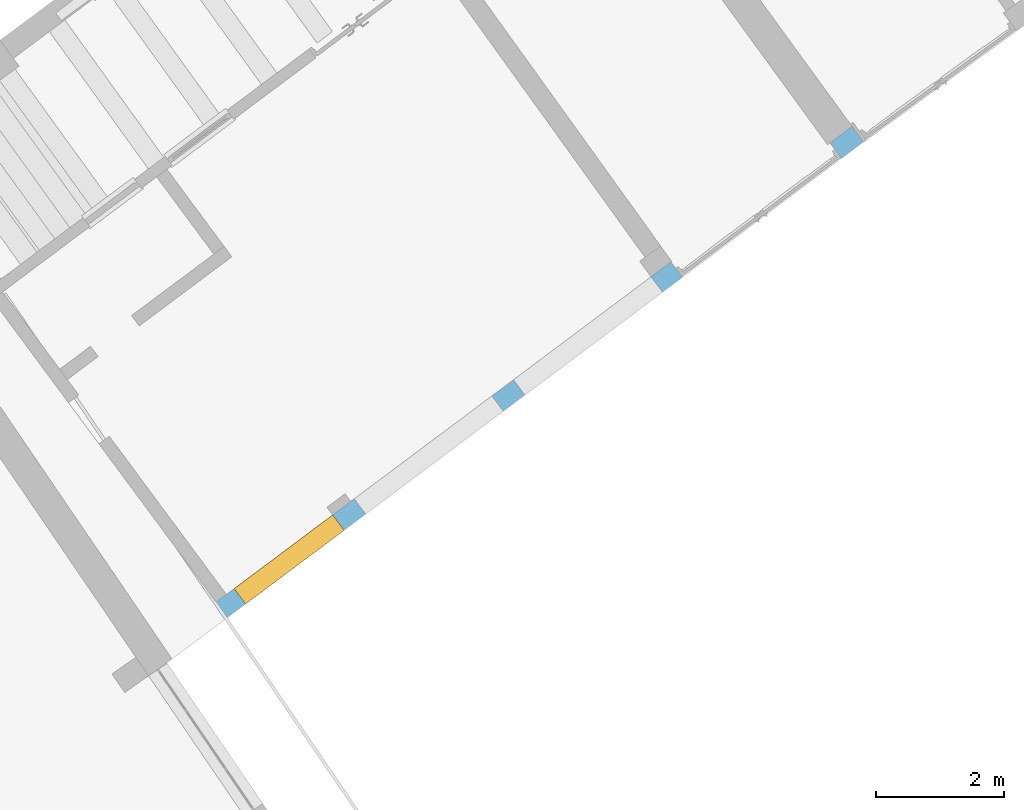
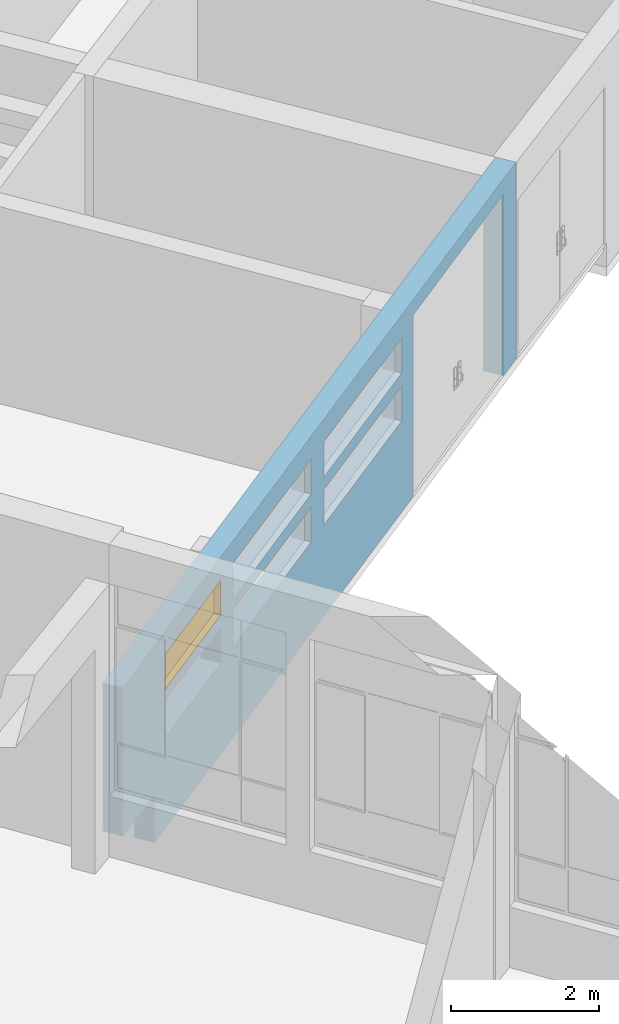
# One storey, part 138 of 157: 1 window, 7 openings, plus 1 element that does not belong to this part.
"""IFC2X3 building model written with IfcOpenShell, lengths in millimetres."""

from ifc_helpers import new_model, entity, si_unit, converted_unit, derived_unit, direction, frame, frame_2d, origin, origin_2d_with_axis, place, context, subcontext, project, spatial, polyline, rectangle, outline, extrude, faceted_brep, source, transform, mapped, material, material_list, layer, layer_set, type_object, type_shapes, element, fill, save


model = new_model("IFC2X3")

# Units and contexts
model_context = context("Model", 3, precision=0.01, world=origin(), true_north=direction((6.123031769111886e-17, 1.0)))
body_context = subcontext(model_context, "Body", "Model", "MODEL_VIEW")
ifc_project = project(units=[si_unit("LENGTHUNIT", "METRE", prefix="MILLI"), si_unit("AREAUNIT", "SQUARE_METRE"), si_unit("VOLUMEUNIT", "CUBIC_METRE"), converted_unit("PLANEANGLEUNIT", "DEGREE", entity("IfcRatioMeasure", 0.017453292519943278), si_unit("PLANEANGLEUNIT", "RADIAN"), dimensions=[0, 0, 0, 0, 0, 0, 0]), si_unit("MASSUNIT", "GRAM", prefix="KILO"), derived_unit("MASSDENSITYUNIT", [(si_unit("MASSUNIT", "GRAM", prefix="KILO"), 1), (si_unit("LENGTHUNIT", "METRE"), -3)]), derived_unit("MOMENTOFINERTIAUNIT", [(si_unit("LENGTHUNIT", "METRE"), 4)]), si_unit("TIMEUNIT", "SECOND"), si_unit("FREQUENCYUNIT", "HERTZ"), si_unit("THERMODYNAMICTEMPERATUREUNIT", "DEGREE_CELSIUS"), derived_unit("THERMALTRANSMITTANCEUNIT", [(si_unit("MASSUNIT", "GRAM", prefix="KILO"), 1), (si_unit("THERMODYNAMICTEMPERATUREUNIT", "KELVIN"), -1), (si_unit("TIMEUNIT", "SECOND"), -3)]), derived_unit("THERMALCONDUCTANCEUNIT", [(si_unit("MASSUNIT", "GRAM", prefix="KILO"), 1), (si_unit("LENGTHUNIT", "METRE"), 1), (si_unit("THERMODYNAMICTEMPERATUREUNIT", "KELVIN"), -1), (si_unit("TIMEUNIT", "SECOND"), -3)]), derived_unit("VOLUMETRICFLOWRATEUNIT", [(si_unit("LENGTHUNIT", "METRE"), 3), (si_unit("TIMEUNIT", "SECOND"), -1)]), derived_unit("MASSFLOWRATEUNIT", [(si_unit("MASSUNIT", "GRAM", prefix="KILO"), 1), (si_unit("TIMEUNIT", "SECOND"), -1)]), derived_unit("ROTATIONALFREQUENCYUNIT", [(si_unit("TIMEUNIT", "SECOND"), -1)]), si_unit("ELECTRICCURRENTUNIT", "AMPERE"), si_unit("ELECTRICVOLTAGEUNIT", "VOLT"), si_unit("POWERUNIT", "WATT"), converted_unit("FORCEUNIT", "KIP", entity("IfcRatioMeasure", 2.088543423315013e-05), si_unit("FORCEUNIT", "NEWTON"), dimensions=[1, 1, -2, 0, 0, 0, 0]), si_unit("ILLUMINANCEUNIT", "LUX"), si_unit("LUMINOUSFLUXUNIT", "LUMEN"), si_unit("LUMINOUSINTENSITYUNIT", "CANDELA"), derived_unit("USERDEFINED", [(si_unit("MASSUNIT", "GRAM", prefix="KILO"), -1), (si_unit("LENGTHUNIT", "METRE"), -2), (si_unit("TIMEUNIT", "SECOND"), 3), (si_unit("LUMINOUSFLUXUNIT", "LUMEN"), 1)]), derived_unit("USERDEFINED", [(si_unit("MASSUNIT", "GRAM", prefix="KILO"), 1), (si_unit("LENGTHUNIT", "METRE"), 3), (si_unit("TIMEUNIT", "SECOND"), -3), (si_unit("ELECTRICCURRENTUNIT", "AMPERE"), -2)]), derived_unit("USERDEFINED", [(si_unit("LENGTHUNIT", "METRE"), 2), (si_unit("TIMEUNIT", "SECOND"), -2)]), derived_unit("SOUNDPOWERUNIT", [(si_unit("MASSUNIT", "GRAM", prefix="KILO"), 1), (si_unit("LENGTHUNIT", "METRE"), 2), (si_unit("TIMEUNIT", "SECOND"), -3)]), derived_unit("SOUNDPRESSUREUNIT", [(si_unit("MASSUNIT", "GRAM", prefix="KILO"), 1), (si_unit("LENGTHUNIT", "METRE"), -1), (si_unit("TIMEUNIT", "SECOND"), -2)]), derived_unit("LINEARVELOCITYUNIT", [(si_unit("LENGTHUNIT", "METRE"), 1), (si_unit("TIMEUNIT", "SECOND"), -1)]), si_unit("PRESSUREUNIT", "PASCAL"), derived_unit("USERDEFINED", [(si_unit("LENGTHUNIT", "METRE"), -2), (si_unit("MASSUNIT", "GRAM", prefix="KILO"), 1), (si_unit("TIMEUNIT", "SECOND"), -2)]), derived_unit("LINEARFORCEUNIT", [(si_unit("MASSUNIT", "GRAM", prefix="KILO"), 1), (si_unit("LENGTHUNIT", "METRE"), 1), (si_unit("TIMEUNIT", "SECOND"), -2), (si_unit("LENGTHUNIT", "METRE"), -1)]), derived_unit("PLANARFORCEUNIT", [(si_unit("MASSUNIT", "GRAM", prefix="KILO"), 1), (si_unit("LENGTHUNIT", "METRE"), 1), (si_unit("TIMEUNIT", "SECOND"), -2), (si_unit("LENGTHUNIT", "METRE"), -2)]), derived_unit("SPECIFICHEATCAPACITYUNIT", [(si_unit("LENGTHUNIT", "METRE"), 2), (si_unit("TIMEUNIT", "SECOND"), -2), (si_unit("THERMODYNAMICTEMPERATUREUNIT", "KELVIN"), -1)]), derived_unit("VAPORPERMEABILITYUNIT", [(si_unit("TIMEUNIT", "SECOND"), 1), (si_unit("LENGTHUNIT", "METRE"), -1)]), derived_unit("DYNAMICVISCOSITYUNIT", [(si_unit("MASSUNIT", "GRAM", prefix="KILO"), 1), (si_unit("LENGTHUNIT", "METRE"), -1), (si_unit("TIMEUNIT", "SECOND"), -1)]), derived_unit("THERMALEXPANSIONCOEFFICIENTUNIT", [(si_unit("THERMODYNAMICTEMPERATUREUNIT", "KELVIN"), -1)])], contexts=[model_context])

# Site, building, storey
site_placement = place(None, frame((0.0, 0.0, 0.0), z_axis=(0.0, 0.0, 1.0), x_axis=(0.8191520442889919, 0.5735764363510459, 0.0)))
site = spatial("IfcSite", under=ifc_project, at=site_placement, Name="Default", CompositionType="ELEMENT")
building_placement = place(site_placement, origin())
building = spatial("IfcBuilding", under=site, at=building_placement, CompositionType="ELEMENT")
storey_placement = place(building_placement, origin())
storey = spatial("IfcBuildingStorey", under=building, at=storey_placement, Name="1.EG +0.00", CompositionType="ELEMENT", Elevation=-4.331468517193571e-12)

# Wall, openings, window
ifc_material_1 = material(Name="Analytical Wall Surface_CJC")
ifc_layer = layer(ifc_material_1, 300.0)
ifc_layer_set = layer_set([ifc_layer], Name="Basic Wall:Wand_Aussen_30")
wall_type = type_object("IfcWallType", Name="Basic Wall:Wand_Aussen_30", PredefinedType="STANDARD", material=ifc_layer_set)
wall_placement = place(storey_placement, frame((-204115.16931109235, 157974.41195440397, -750.0), z_axis=(0.0, 0.0, 1.0), x_axis=(0.9995120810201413, 0.031234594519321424, 0.0)))
wall = element("IfcWall", 1, at=wall_placement, inside=storey, type_object=wall_type, Name="Basic Wall:Wand_Aussen_30", ObjectType="Basic Wall:Wand_Aussen_30", context=body_context, shape_type="Brep", body=[
    faceted_brep([(13462.146148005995, -150.0, 3250.0), (0.0, -150.0, 3250.0), (0.0, -150.0, 800.0), (1079.6115661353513, -150.0, 800.0), (1079.6115661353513, -150.0, 0.0), (9937.425197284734, -150.0, 0.0), (9937.425197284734, -150.0, 3000.0), (13037.425197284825, -150.0, 3000.0), (13037.425197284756, -150.0, 0.0), (13462.146148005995, -150.0, 0.0), (6451.92844655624, -150.0, 1500.0), (3771.928446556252, -150.0, 1500.0), (3771.928446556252, -150.0, 2090.0), (6451.92844655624, -150.0, 2090.0), (9551.928446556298, -150.0, 1500.0), (6871.928446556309, -150.0, 1500.0), (6871.928446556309, -150.0, 2090.0), (9551.928446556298, -150.0, 2090.0), (3351.9284465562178, -150.0, 1500.0), (1431.928446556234, -150.0, 1500.0), (1431.928446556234, -150.0, 2090.0), (3351.9284465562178, -150.0, 2090.0), (3351.9284465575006, -150.0, 2880.0), (3351.9284465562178, -150.0, 2290.0), (1431.928446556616, -150.0, 2290.0), (1431.9284465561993, -150.0, 2880.0), (9551.928446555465, -150.0, 2880.0), (9551.928446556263, -150.0, 2290.0), (6871.928446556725, -150.0, 2290.0), (6871.928446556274, -150.0, 2880.0), (6451.928446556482, -150.0, 2880.0), (6451.928446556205, -150.0, 2290.0), (3771.9284465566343, -150.0, 2290.0), (3771.9284465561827, -150.0, 2880.0), (0.0, 150.0, 3250.0), (1081.098058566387, 150.0, 3250.0), (1281.100513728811, 150.0, 3250.0), (3351.9284465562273, 150.0, 3250.0), (3701.9284465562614, 150.0, 3250.0), (9551.928446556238, 150.0, 3250.0), (9951.967355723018, 150.0, 3250.0), (12990.91558234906, 150.0, 3250.0), (13465.953840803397, 150.0, 3250.0), (13465.953840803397, 150.0, 0.0), (13037.425197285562, 150.0, 0.0), (13037.42519728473, 150.0, 3000.0), (9937.425197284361, 150.0, 3000.0), (9937.425197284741, 150.0, 0.0), (1281.100513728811, 150.0, 0.0), (1081.098058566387, 150.0, 0.0), (1081.098058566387, 150.0, 800.0), (0.0, 150.0, 800.0), (6451.928446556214, 150.0, 1500.0), (6451.928446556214, 150.0, 2090.0), (3771.9284465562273, 150.0, 2090.0), (3771.9284465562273, 150.0, 1500.0), (9551.928446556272, 150.0, 1500.0), (9551.928446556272, 150.0, 2090.0), (6871.928446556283, 150.0, 2090.0), (6871.928446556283, 150.0, 1500.0), (3351.9284465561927, 150.0, 1500.0), (3351.9284465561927, 150.0, 2090.0), (1431.9284465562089, 150.0, 2090.0), (1431.9284465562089, 150.0, 1500.0), (9551.928446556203, 150.0, 2290.0), (9551.928446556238, 150.0, 2880.0), (6871.928446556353, 150.0, 2880.0), (6871.928446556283, 150.0, 2290.0), (6451.928446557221, 150.0, 2290.0), (6451.928446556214, 150.0, 2880.0), (3771.928446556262, 150.0, 2880.0), (3771.9284465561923, 150.0, 2290.0), (3351.9284465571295, 150.0, 2290.0), (3351.9284465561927, 150.0, 2880.0), (1431.9284465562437, 150.0, 2880.0), (1431.9284465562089, 150.0, 2290.0)], [[[0, 1, 2, 3, 4, 5, 6, 7, 8, 9], [10, 11, 12, 13], [14, 15, 16, 17], [18, 19, 20, 21], [22, 23, 24, 25], [26, 27, 28, 29], [30, 31, 32, 33]], [[34, 35, 36, 37, 38, 39, 40, 41, 42, 43, 44, 45, 46, 47, 48, 49, 50, 51], [52, 53, 54, 55], [56, 57, 58, 59], [60, 61, 62, 63], [64, 65, 66, 67], [68, 69, 70, 71], [72, 73, 74, 75]], [[0, 9, 43, 42]], [[4, 49, 48, 47, 5]], [[1, 0, 42, 41, 40, 39, 38, 37, 36, 35, 34]], [[2, 1, 34, 51]], [[3, 2, 51, 50]], [[4, 3, 50, 49]], [[46, 6, 5, 47]], [[6, 46, 45, 7]], [[7, 45, 44, 8]], [[53, 52, 10, 13]], [[54, 53, 13, 12]], [[55, 54, 12, 11]], [[52, 55, 11, 10]], [[57, 56, 14, 17]], [[58, 57, 17, 16]], [[59, 58, 16, 15]], [[56, 59, 15, 14]], [[61, 60, 18, 21]], [[62, 61, 21, 20]], [[63, 62, 20, 19]], [[60, 63, 19, 18]], [[72, 23, 22, 73]], [[73, 22, 25, 74]], [[74, 25, 24, 75]], [[23, 72, 75, 24]], [[64, 27, 26, 65]], [[65, 26, 29, 66]], [[28, 67, 66, 29]], [[27, 64, 67, 28]], [[68, 31, 30, 69]], [[69, 30, 33, 70]], [[32, 71, 70, 33]], [[31, 68, 71, 32]], [[43, 9, 8, 44]]]),
])
opening_1_placement = place(wall_placement, frame((13037.425197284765, 150.0, 0.0)))
element("IfcOpeningElement", 2, at=opening_1_placement, cuts=wall, Name="M_Door-Exterior-Double:300x290:1", ObjectType="Opening", context=body_context, shape_type="SweptSolid", body=[
    extrude(rectangle(XDim=3000.0, YDim=3099.999999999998, at=frame_2d((1500.0, 1549.999999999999), x_axis=(1.0, 0.0))), frame((0.0, 0.0, 0.0), z_axis=(0.0, -1.0, 0.0), x_axis=(0.0, 0.0, 1.0)), (0.0, 0.0, 1.0), 300.0),
])
opening_2_placement = place(wall_placement, frame((6451.928446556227, 150.0, 1500.0)))
element("IfcOpeningElement", 3, at=opening_2_placement, cuts=wall, Name="WINDOW_Glass_Block:WINDOW_Glass_Block_14x3:1", ObjectType="Opening", context=body_context, shape_type="SweptSolid", body=[
    extrude(rectangle(XDim=589.9999999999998, YDim=2679.999999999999, at=frame_2d((294.99999999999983, 1339.9999999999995), x_axis=(1.0, 0.0))), frame((0.0, 0.0, 0.0), z_axis=(0.0, -1.0, 0.0), x_axis=(0.0, 0.0, 1.0)), (0.0, 0.0, 1.0), 300.0),
])
opening_3_placement = place(wall_placement, frame((9551.928446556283, 150.0, 1500.0)))
element("IfcOpeningElement", 4, at=opening_3_placement, cuts=wall, Name="WINDOW_Glass_Block:WINDOW_Glass_Block_14x3:1", ObjectType="Opening", context=body_context, shape_type="SweptSolid", body=[
    extrude(rectangle(XDim=589.9999999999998, YDim=2679.999999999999, at=frame_2d((294.99999999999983, 1339.9999999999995), x_axis=(1.0, 0.0))), frame((0.0, 0.0, 0.0), z_axis=(0.0, -1.0, 0.0), x_axis=(0.0, 0.0, 1.0)), (0.0, 0.0, 1.0), 300.0),
])
opening_4_placement = place(wall_placement, frame((3351.92844655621, 150.0, 1500.0)))
element("IfcOpeningElement", 5, at=opening_4_placement, cuts=wall, Name="WINDOW_Glass_Block:WINDOW_Glass_Block_10x3:1", ObjectType="Opening", context=body_context, shape_type="SweptSolid", body=[
    extrude(rectangle(XDim=589.9999999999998, YDim=1920.0, at=frame_2d((294.99999999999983, 960.0), x_axis=(1.0, 0.0))), frame((0.0, 0.0, 0.0), z_axis=(0.0, -1.0, 0.0), x_axis=(0.0, 0.0, 1.0)), (0.0, 0.0, 1.0), 300.0),
])
opening_5_placement = place(wall_placement, frame((6451.928446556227, 150.0, 2290.0)))
element("IfcOpeningElement", 6, at=opening_5_placement, cuts=wall, Name="WINDOW_Glass_Block:WINDOW_Glass_Block_14x3:1", ObjectType="Opening", context=body_context, shape_type="SweptSolid", body=[
    extrude(rectangle(XDim=589.9999999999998, YDim=2679.999999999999, at=frame_2d((294.99999999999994, 1339.9999999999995), x_axis=(1.0, 0.0))), frame((0.0, 0.0, 0.0), z_axis=(0.0, -1.0, 0.0), x_axis=(0.0, 0.0, 1.0)), (0.0, 0.0, 1.0), 300.0),
])
opening_6_placement = place(wall_placement, frame((9551.928446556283, 150.0, 2290.0)))
element("IfcOpeningElement", 7, at=opening_6_placement, cuts=wall, Name="WINDOW_Glass_Block:WINDOW_Glass_Block_14x3:1", ObjectType="Opening", context=body_context, shape_type="SweptSolid", body=[
    extrude(rectangle(XDim=589.9999999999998, YDim=2679.999999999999, at=frame_2d((294.99999999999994, 1339.9999999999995), x_axis=(1.0, 0.0))), frame((0.0, 0.0, 0.0), z_axis=(0.0, -1.0, 0.0), x_axis=(0.0, 0.0, 1.0)), (0.0, 0.0, 1.0), 300.0),
])
opening_7_placement = place(wall_placement, frame((3351.92844655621, 150.0, 2290.0)))
opening_7 = element("IfcOpeningElement", 8, at=opening_7_placement, cuts=wall, Name="WINDOW_Glass_Block:WINDOW_Glass_Block_10x3:1", ObjectType="Opening", context=body_context, shape_type="SweptSolid", body=[
    extrude(rectangle(XDim=589.9999999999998, YDim=1920.0, at=frame_2d((294.99999999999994, 960.0), x_axis=(1.0, 0.0))), frame((0.0, 0.0, 0.0), z_axis=(0.0, -1.0, 0.0), x_axis=(0.0, 0.0, 1.0)), (0.0, 0.0, 1.0), 300.0),
])
ifc_material_2 = material(Name="Glass")
ifc_material_3 = material(Name="Wood")
ifc_material_list = material_list([ifc_material_2, ifc_material_3])
window_style = type_object("IfcWindowStyle", Name="WINDOW_Glass_Block:WINDOW_Glass_Block_10x3", ConstructionType="NOTDEFINED", OperationType="NOTDEFINED", ParameterTakesPrecedence=False, Sizeable=False, material=ifc_material_list)
shared_shape = source(origin(), body_context, "Body", "SweptSolid", [
    extrude(rectangle(XDim=190.0, YDim=100.0, at=frame_2d((-6.394884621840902e-14, 0.0), x_axis=(1.0, 0.0))), frame((1625.0, 150.0, 200.0), z_axis=(0.0, 0.0, 1.0), x_axis=(-1.0, 0.0, 0.0)), (0.0, 0.0, 1.0), 189.99999999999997),
    extrude(rectangle(XDim=189.99999999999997, YDim=100.0, at=origin_2d_with_axis()), frame((1435.0, 150.0, 200.0), z_axis=(0.0, 0.0, 1.0), x_axis=(-1.0, 0.0, 0.0)), (0.0, 0.0, 1.0), 189.99999999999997),
    extrude(rectangle(XDim=189.99999999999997, YDim=100.0, at=origin_2d_with_axis()), frame((1245.0, 150.0, 200.0), z_axis=(0.0, 0.0, 1.0), x_axis=(-1.0, 0.0, 0.0)), (0.0, 0.0, 1.0), 189.99999999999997),
    extrude(rectangle(XDim=190.00000000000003, YDim=100.0, at=origin_2d_with_axis()), frame((1055.0, 150.0, 200.0), z_axis=(0.0, 0.0, 1.0), x_axis=(-1.0, 0.0, 0.0)), (0.0, 0.0, 1.0), 189.99999999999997),
    extrude(rectangle(XDim=190.0, YDim=100.0, at=frame_2d((-2.1316282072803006e-14, 0.0), x_axis=(1.0, 0.0))), frame((865.0, 150.0, 200.0), z_axis=(0.0, 0.0, 1.0), x_axis=(-1.0, 0.0, 0.0)), (0.0, 0.0, 1.0), 189.99999999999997),
    extrude(rectangle(XDim=190.0, YDim=100.0, at=frame_2d((-2.1316282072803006e-14, 0.0), x_axis=(1.0, 0.0))), frame((675.0, 150.0, 200.0), z_axis=(0.0, 0.0, 1.0), x_axis=(-1.0, 0.0, 0.0)), (0.0, 0.0, 1.0), 189.99999999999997),
    extrude(rectangle(XDim=190.00000000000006, YDim=100.0, at=frame_2d((-3.552713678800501e-14, 0.0), x_axis=(1.0, 0.0))), frame((485.0, 150.0, 200.0), z_axis=(0.0, 0.0, 1.0), x_axis=(-1.0, 0.0, 0.0)), (0.0, 0.0, 1.0), 189.99999999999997),
    extrude(rectangle(XDim=190.0, YDim=100.0, at=frame_2d((6.394884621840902e-14, 0.0), x_axis=(1.0, 0.0))), frame((295.0, 150.0, 200.0), z_axis=(0.0, 0.0, 1.0), x_axis=(-1.0, 0.0, 0.0)), (0.0, 0.0, 1.0), 189.99999999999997),
    extrude(rectangle(XDim=190.0, YDim=100.0, at=frame_2d((-6.394884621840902e-14, 0.0), x_axis=(1.0, 0.0))), frame((1815.0, 150.0, 200.0), z_axis=(0.0, 0.0, 1.0), x_axis=(-1.0, 0.0, 0.0)), (0.0, 0.0, 1.0), 189.99999999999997),
    extrude(rectangle(XDim=190.0, YDim=100.0, at=frame_2d((-6.394884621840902e-14, 0.0), x_axis=(1.0, 0.0))), frame((105.0, 150.0, 200.0), z_axis=(0.0, 0.0, 1.0), x_axis=(-1.0, 0.0, 0.0)), (0.0, 0.0, 1.0), 189.99999999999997),
    extrude(rectangle(XDim=190.0, YDim=100.0, at=frame_2d((-6.394884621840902e-14, 0.0), x_axis=(1.0, 0.0))), frame((1625.0, 150.0, 390.0), z_axis=(0.0, 0.0, 1.0), x_axis=(-1.0, 0.0, 0.0)), (0.0, 0.0, 1.0), 190.0000000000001),
    extrude(rectangle(XDim=189.99999999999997, YDim=100.0, at=origin_2d_with_axis()), frame((1435.0, 150.0, 390.0), z_axis=(0.0, 0.0, 1.0), x_axis=(-1.0, 0.0, 0.0)), (0.0, 0.0, 1.0), 190.0000000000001),
    extrude(rectangle(XDim=189.99999999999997, YDim=100.0, at=origin_2d_with_axis()), frame((1245.0, 150.0, 390.0), z_axis=(0.0, 0.0, 1.0), x_axis=(-1.0, 0.0, 0.0)), (0.0, 0.0, 1.0), 190.0000000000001),
    extrude(rectangle(XDim=190.00000000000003, YDim=100.0, at=origin_2d_with_axis()), frame((1055.0, 150.0, 390.0), z_axis=(0.0, 0.0, 1.0), x_axis=(-1.0, 0.0, 0.0)), (0.0, 0.0, 1.0), 190.0000000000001),
    extrude(rectangle(XDim=190.0, YDim=100.0, at=frame_2d((-2.1316282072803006e-14, 0.0), x_axis=(1.0, 0.0))), frame((865.0, 150.0, 390.0), z_axis=(0.0, 0.0, 1.0), x_axis=(-1.0, 0.0, 0.0)), (0.0, 0.0, 1.0), 190.0000000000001),
    extrude(rectangle(XDim=190.0, YDim=100.0, at=frame_2d((-2.1316282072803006e-14, 0.0), x_axis=(1.0, 0.0))), frame((675.0, 150.0, 390.0), z_axis=(0.0, 0.0, 1.0), x_axis=(-1.0, 0.0, 0.0)), (0.0, 0.0, 1.0), 190.0000000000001),
    extrude(rectangle(XDim=190.00000000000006, YDim=100.0, at=frame_2d((-3.552713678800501e-14, 0.0), x_axis=(1.0, 0.0))), frame((485.0, 150.0, 390.0), z_axis=(0.0, 0.0, 1.0), x_axis=(-1.0, 0.0, 0.0)), (0.0, 0.0, 1.0), 190.0000000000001),
    extrude(rectangle(XDim=190.0, YDim=100.0, at=frame_2d((6.394884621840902e-14, 0.0), x_axis=(1.0, 0.0))), frame((295.0, 150.0, 390.0), z_axis=(0.0, 0.0, 1.0), x_axis=(-1.0, 0.0, 0.0)), (0.0, 0.0, 1.0), 190.0000000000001),
    extrude(rectangle(XDim=190.0, YDim=100.0, at=frame_2d((-6.394884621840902e-14, 0.0), x_axis=(1.0, 0.0))), frame((1815.0, 150.0, 390.0), z_axis=(0.0, 0.0, 1.0), x_axis=(-1.0, 0.0, 0.0)), (0.0, 0.0, 1.0), 190.0000000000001),
    extrude(rectangle(XDim=190.0, YDim=100.0, at=frame_2d((-6.394884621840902e-14, 0.0), x_axis=(1.0, 0.0))), frame((105.0, 150.0, 390.0), z_axis=(0.0, 0.0, 1.0), x_axis=(-1.0, 0.0, 0.0)), (0.0, 0.0, 1.0), 190.0000000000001),
    extrude(rectangle(XDim=190.0, YDim=100.0, at=frame_2d((-6.394884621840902e-14, 0.0), x_axis=(1.0, 0.0))), frame((1625.0, 150.0, 10.0), z_axis=(0.0, 0.0, 1.0), x_axis=(-1.0, 0.0, 0.0)), (0.0, 0.0, 1.0), 189.99999999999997),
    extrude(rectangle(XDim=189.99999999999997, YDim=100.0, at=origin_2d_with_axis()), frame((1435.0, 150.0, 10.0), z_axis=(0.0, 0.0, 1.0), x_axis=(-1.0, 0.0, 0.0)), (0.0, 0.0, 1.0), 189.99999999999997),
    extrude(rectangle(XDim=189.99999999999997, YDim=100.0, at=origin_2d_with_axis()), frame((1245.0, 150.0, 10.0), z_axis=(0.0, 0.0, 1.0), x_axis=(-1.0, 0.0, 0.0)), (0.0, 0.0, 1.0), 189.99999999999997),
    extrude(rectangle(XDim=190.00000000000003, YDim=100.0, at=origin_2d_with_axis()), frame((1055.0, 150.0, 10.0), z_axis=(0.0, 0.0, 1.0), x_axis=(-1.0, 0.0, 0.0)), (0.0, 0.0, 1.0), 189.99999999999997),
    extrude(rectangle(XDim=190.0, YDim=100.0, at=frame_2d((-2.1316282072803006e-14, 0.0), x_axis=(1.0, 0.0))), frame((865.0, 150.0, 10.0), z_axis=(0.0, 0.0, 1.0), x_axis=(-1.0, 0.0, 0.0)), (0.0, 0.0, 1.0), 189.99999999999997),
    extrude(rectangle(XDim=190.0, YDim=100.0, at=frame_2d((-2.1316282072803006e-14, 0.0), x_axis=(1.0, 0.0))), frame((675.0, 150.0, 10.0), z_axis=(0.0, 0.0, 1.0), x_axis=(-1.0, 0.0, 0.0)), (0.0, 0.0, 1.0), 189.99999999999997),
    extrude(rectangle(XDim=190.00000000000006, YDim=100.0, at=frame_2d((-3.552713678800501e-14, 0.0), x_axis=(1.0, 0.0))), frame((485.0, 150.0, 10.0), z_axis=(0.0, 0.0, 1.0), x_axis=(-1.0, 0.0, 0.0)), (0.0, 0.0, 1.0), 189.99999999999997),
    extrude(rectangle(XDim=190.0, YDim=100.0, at=frame_2d((6.394884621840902e-14, 0.0), x_axis=(1.0, 0.0))), frame((295.0, 150.0, 10.0), z_axis=(0.0, 0.0, 1.0), x_axis=(-1.0, 0.0, 0.0)), (0.0, 0.0, 1.0), 189.99999999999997),
    extrude(rectangle(XDim=190.0, YDim=100.0, at=frame_2d((-6.394884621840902e-14, 0.0), x_axis=(1.0, 0.0))), frame((1815.0, 150.0, 10.0), z_axis=(0.0, 0.0, 1.0), x_axis=(-1.0, 0.0, 0.0)), (0.0, 0.0, 1.0), 189.99999999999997),
    extrude(rectangle(XDim=190.0, YDim=100.0, at=frame_2d((-6.394884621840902e-14, 0.0), x_axis=(1.0, 0.0))), frame((105.0, 150.0, 10.0), z_axis=(0.0, 0.0, 1.0), x_axis=(-1.0, 0.0, 0.0)), (0.0, 0.0, 1.0), 189.99999999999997),
    extrude(outline(polyline([(-295.0, -960.0), (295.0, -960.0), (295.0, 960.0), (-295.0, 960.0), (-295.0, -960.0)]), holes=[polyline([(-285.0, -950.0), (-285.0, 950.0), (285.0, 950.0), (285.0, -950.0), (-285.0, -950.0)])]), frame((960.0, 0.0, 295.0), z_axis=(0.0, 1.0, 0.0), x_axis=(0.0, 0.0, -1.0)), (0.0, 0.0, 1.0), 300.0),
])
type_shapes(window_style, [shared_shape])
window_placement = place(opening_7_placement, frame((0.0, 0.0, 0.0), z_axis=(0.0, 0.0, 1.0), x_axis=(-1.0, 0.0, 0.0)))
window = element("IfcWindow", 9, at=window_placement, inside=storey, type_object=window_style, material=ifc_material_list, Name="WINDOW_Glass_Block:WINDOW_Glass_Block_10x3", ObjectType="WINDOW_Glass_Block:WINDOW_Glass_Block_10x3", OverallHeight=589.9999999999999, OverallWidth=1919.999999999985, context=body_context, shape_type="MappedRepresentation", body=[
    mapped(shared_shape, transform((0.0, 0.0, 0.0), scale=1.0)),
])
fill(opening_7, window)

save(model, "model.ifc")
